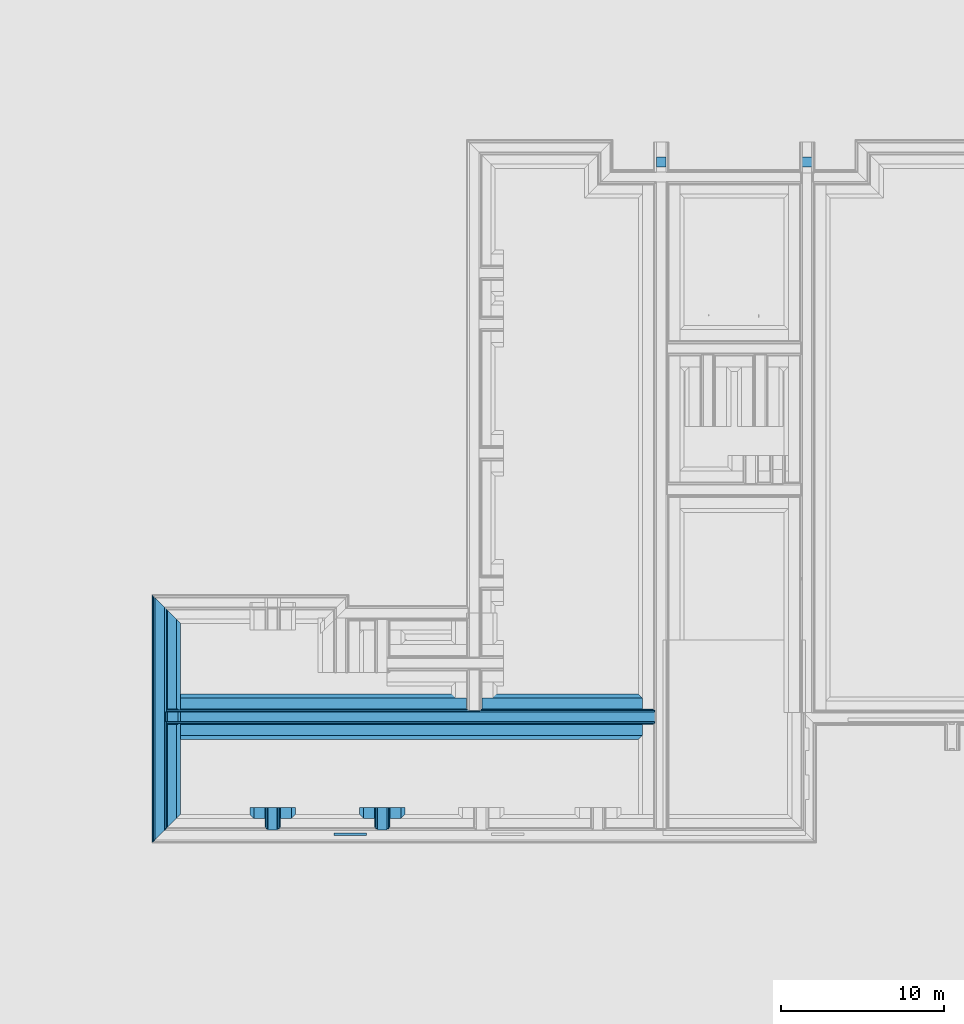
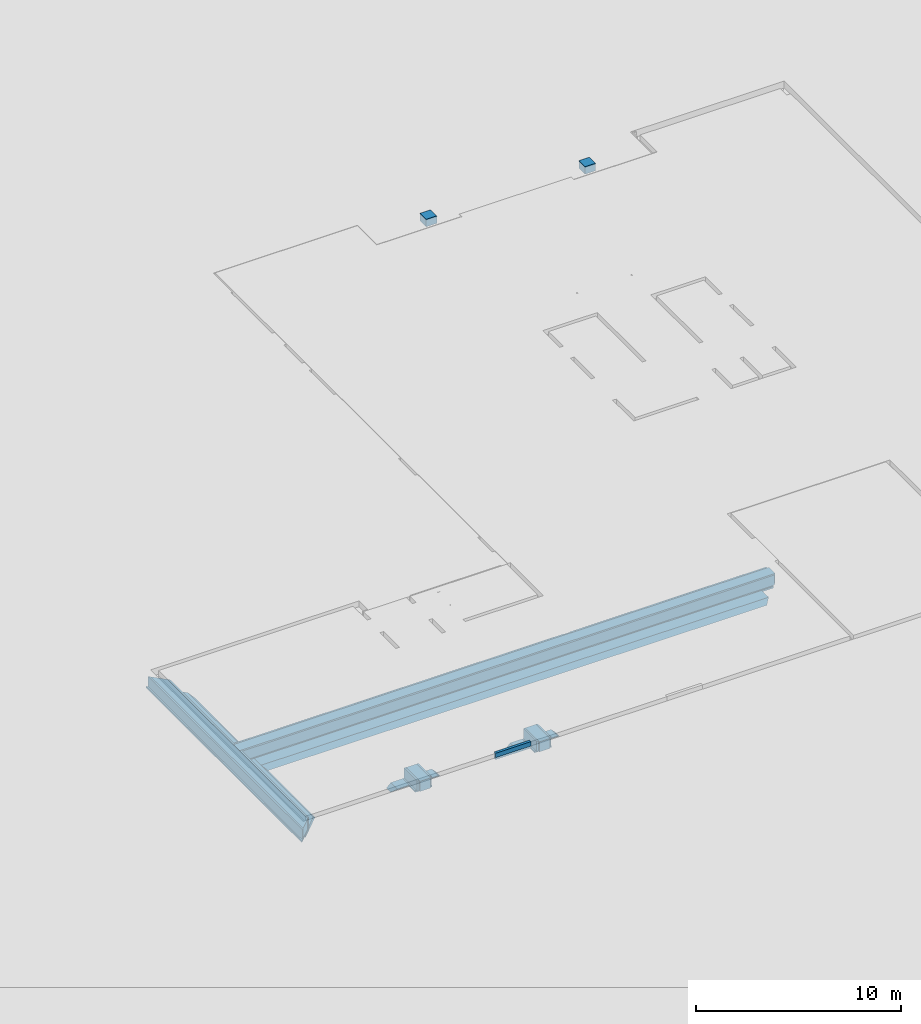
# One storey, part 2 of 15: 22 building element parts, 2 slabs, 5 elements without a shape of their own.
"""IFC2X3 building model written with IfcOpenShell, lengths in millimetres."""

from ifc_helpers import new_model, entity, si_unit, converted_unit, derived_unit, money_unit, direction, frame, origin_with_axes, place, context, subcontext, project, spatial, faceted_brep, material, type_object, element, aggregate, save


model = new_model("IFC2X3")

# Units and contexts
model_context = context("Model", 3, precision=0.01, world=origin_with_axes(), true_north=direction((0.0, 1.0)))
plan_context = context("Plan", 3, precision=0.01, world=origin_with_axes(), true_north=direction((0.0, 1.0)))
body_context = subcontext(model_context, "Body", "Model", "MODEL_VIEW")
ifc_project = project(units=[si_unit("LENGTHUNIT", "METRE", prefix="MILLI"), si_unit("AREAUNIT", "SQUARE_METRE"), si_unit("VOLUMEUNIT", "CUBIC_METRE"), converted_unit("PLANEANGLEUNIT", "DEGREE", entity("IfcPlaneAngleMeasure", 0.0174532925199), si_unit("PLANEANGLEUNIT", "RADIAN"), dimensions=[0, 0, 0, 0, 0, 0, 0]), money_unit("EUR"), converted_unit("TIMEUNIT", "Year", entity("IfcTimeMeasure", 31556926.0), si_unit("TIMEUNIT", "SECOND"), dimensions=[0, 0, 1, 0, 0, 0, 0]), si_unit("MASSUNIT", "GRAM", prefix="KILO"), si_unit("THERMODYNAMICTEMPERATUREUNIT", "DEGREE_CELSIUS"), si_unit("LUMINOUSINTENSITYUNIT", "LUMEN"), si_unit("ENERGYUNIT", "JOULE", prefix="MEGA"), derived_unit("THERMALCONDUCTANCEUNIT", [(si_unit("POWERUNIT", "WATT"), 1), (si_unit("LENGTHUNIT", "METRE"), -1), (si_unit("THERMODYNAMICTEMPERATUREUNIT", "KELVIN"), -1)]), derived_unit("SPECIFICHEATCAPACITYUNIT", [(si_unit("ENERGYUNIT", "JOULE"), 1), (si_unit("MASSUNIT", "GRAM", prefix="KILO"), -1), (si_unit("THERMODYNAMICTEMPERATUREUNIT", "KELVIN"), -1)]), derived_unit("MASSDENSITYUNIT", [(si_unit("MASSUNIT", "GRAM", prefix="KILO"), 1), (si_unit("VOLUMEUNIT", "CUBIC_METRE"), -1)])], contexts=[model_context, plan_context])

# Site, building, storey
site_placement = place(None, origin_with_axes())
site = spatial("IfcSite", under=ifc_project, at=site_placement, Name="Site", CompositionType="ELEMENT")
building_placement = place(site_placement, origin_with_axes())
building = spatial("IfcBuilding", under=site, at=building_placement, Name="Naam gebouw", CompositionType="ELEMENT")
storey_placement = place(building_placement, frame((0.0, 0.0, -1050.0), z_axis=(0.0, 0.0, 1.0), x_axis=(1.0, 0.0, 0.0)))
storey = spatial("IfcBuildingStorey", under=building, at=storey_placement, Name="fundering", CompositionType="ELEMENT", Elevation=-1050.0)

# Slabs
ifc_material_1 = material(Name="Beton gewapend C")
slab_type_1 = type_object("IfcSlabType", Name="Beton gewapend C 440", PredefinedType="NOTDEFINED")
for number, where, z_axis, x_axis, name in (
    (1, (35305.0, 45824.1758625, 980.0), (0.0, 0.0, 1.0), (1.0, 0.0, 0.0), "23_dakisolatie"),
    (2, (44245.0, 45824.1758625, 980.0), (0.0, 0.0, 1.0), (1.0, 0.0, 0.0), "23_dakisolatie"),
):
    element("IfcSlab", number, at=place(storey_placement, frame(where, z_axis=z_axis, x_axis=x_axis)), inside=storey, type_object=slab_type_1, material=ifc_material_1, Name=name, PredefinedType="NOTDEFINED", context=body_context, shape_type="Brep", body=[
        faceted_brep([(600.0, 0.0, -440.000001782), (600.0, 0.0, 0.0), (0.0, 0.0, 0.0), (0.0, 0.0, -440.000001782), (600.0, 600.0, -440.000001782), (600.0, 600.0, 0.0), (0.0, 600.0, 0.0), (0.0, 600.0, -440.000001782)], [[[0, 1, 2, 3]], [[4, 5, 1, 0]], [[1, 5, 6, 2]], [[3, 2, 6, 7]], [[7, 4, 0, 3]], [[7, 6, 5, 4]]]),
    ])

# Slab, building element parts
slab_type_2 = type_object("IfcSlabType", Name="23 kanaaplaat VBI Rc 3,7 132mm 450", PredefinedType="NOTDEFINED")
slab_placement = place(storey_placement, frame((15550.0013568, 4850.0, 1050.0), z_axis=(0.0, 0.0, 1.0), x_axis=(1.0, 0.0, 0.0)))
slab = element("IfcSlab", 3, at=slab_placement, inside=storey, type_object=slab_type_2, Name="23_23 VBI 260 Rc 3,8", PredefinedType="NOTDEFINED")
ifc_material_2 = material(Name="Beton gewapend prefab vloer")
building_element_part_1_placement = place(slab_placement, origin_with_axes())
building_element_part_1 = element("IfcBuildingElementPart", 4, at=building_element_part_1_placement, material=ifc_material_2, Name="Beton gewapend prefab vloer", context=body_context, shape_type="Brep", body=[
    faceted_brep([(2000.0, 0.0, -330.0), (2000.0, 0.0, -70.0), (0.0, 0.0, -70.0), (0.0, 0.0, -330.0), (2000.0, 149.99997201, -330.0), (2000.0, 149.99997201, -70.0), (0.0, 149.99997201, -70.0), (0.0, 149.99997201, -330.0)], [[[0, 1, 2, 3]], [[4, 5, 1, 0]], [[2, 1, 5, 6]], [[3, 2, 6, 7]], [[3, 7, 4, 0]], [[7, 6, 5, 4]]]),
])
ifc_material_3 = material(Name="Isolatie - EPS vloer")
building_element_part_2_placement = place(slab_placement, origin_with_axes())
building_element_part_2 = element("IfcBuildingElementPart", 5, at=building_element_part_2_placement, material=ifc_material_3, Name="Isolatie - EPS vloer", context=body_context, shape_type="Brep", body=[
    faceted_brep([(0.0, 0.0, -330.0), (0.0, 0.0, -450.0), (2000.0, 0.0, -450.0), (2000.0, 0.0, -330.0), (0.0, 149.99997201, -330.0), (0.0, 149.99997201, -450.0), (2000.0, 149.99997201, -450.0), (2000.0, 149.99997201, -330.0)], [[[0, 1, 2, 3]], [[4, 5, 1, 0]], [[2, 1, 5, 6]], [[3, 2, 6, 7]], [[4, 0, 3, 7]], [[7, 6, 5, 4]]]),
])
aggregate(slab, [building_element_part_1, building_element_part_2])

# Beam, building element parts
beam_type_1 = type_object("IfcBeamType", Name="Fundering balk IsoBouw Powerkist 2800 x 850", PredefinedType="BEAM")
beam_1_placement = place(storey_placement, frame((4850.0, 12125.0, -60.0000017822), z_axis=(0.0, 0.0, 1.0), x_axis=(0.0, -1.0, 0.0)))
beam_1 = element("IfcBeam", 6, at=beam_1_placement, inside=storey, type_object=beam_type_1, Name="28_Balk-x", ObjectType="BEAM")
ifc_material_4 = material(Name="ALG - TERREIN")
building_element_part_3_placement = place(beam_1_placement, origin_with_axes())
building_element_part_3 = element("IfcBuildingElementPart", 7, at=building_element_part_3_placement, material=ifc_material_4, Name="ALG - TERREIN", context=body_context, shape_type="Brep", body=[
    faceted_brep([(-1150.00074598, 18819.9997487, -3.57478113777e-06), (-1250.00074851, 18819.9997487, -99.9999968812), (-1250.00074851, 19770.0002513, -99.9999968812), (-1150.00074598, 19770.0002513, -3.57478113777e-06), (-1150.00074598, 29604.999602, -1.92126834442e-05), (-1400.00074851, 29354.9996242, -249.999996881), (-1400.00074851, 1295.00000274, -249.999996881), (-1150.00074598, 1045.00001313, -7.27431315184e-06), (-475.000730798, 18819.9997487, -3.57478113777e-06), (-475.000730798, 18819.9997487, -99.9999968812), (-475.000730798, 19770.0002513, -99.9999968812), (-475.000730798, 1145.00001365, -100.00000779), (475.000730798, 1145.00001365, -100.00000779), (475.000730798, 29504.9996096, -100.000011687), (-475.000730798, 29504.9996096, -100.000011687), (-475.000730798, 19770.0002513, -3.57478113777e-06), (-475.000730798, 29604.999602, -1.92126834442e-05), (1150.00074598, 29604.999602, -1.92126834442e-05), (1400.00074851, 29354.9996242, -249.999996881), (475.000730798, 29604.999602, -1.92126834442e-05), (1400.00074851, 1295.00000274, -249.999996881), (-475.000730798, 1045.00001313, -7.27431315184e-06), (1150.00074598, 1045.00001313, -7.27431315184e-06), (475.000730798, 1045.00001313, -7.27431315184e-06)], [[[0, 1, 2, 3, 4, 5, 6, 7]], [[1, 0, 8, 9]], [[10, 2, 1, 9, 11, 12, 13, 14]], [[3, 2, 10, 15]], [[3, 15, 16, 4]], [[17, 18, 5, 4, 16, 14, 13, 19]], [[18, 20, 6, 5]], [[21, 7, 6, 20, 22, 23, 12, 11]], [[8, 0, 7, 21]], [[9, 8, 21, 11]], [[13, 12, 23, 19]], [[15, 10, 14, 16]], [[17, 22, 20, 18]], [[19, 23, 22, 17]]]),
])
ifc_material_5 = material(Name="Isolatie - EPS")
building_element_part_4_placement = place(beam_1_placement, origin_with_axes())
building_element_part_4 = element("IfcBuildingElementPart", 8, at=building_element_part_4_placement, material=ifc_material_5, Name="Isolatie - EPS", context=body_context, shape_type="Brep", body=[
    faceted_brep([(-475.000748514, 30279.9996244, -99.9999968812), (-475.000748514, 495.00000274, -99.9999968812), (-475.000748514, 495.00000274, 7.15338899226e-07), (-475.000748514, 30279.9996244, 1.52455683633e-05), (475.000748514, 30279.9996244, -99.9999968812), (475.000748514, 495.00000274, -99.9999968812), (-380.000754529, 495.00000274, 7.15338899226e-07), (-400.000745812, 495.00000274, 7.15338899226e-07), (475.000748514, 495.00000274, 7.15338899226e-07), (400.000745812, 495.00000274, 7.15338899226e-07), (380.000754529, 495.00000274, 7.15338899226e-07), (380.000754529, 495.00000274, -49.0824460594), (300.000746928, 495.00000274, -49.0824460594), (300.000746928, 495.00000274, 7.15338899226e-07), (-300.000746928, 495.00000274, 7.15338899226e-07), (-300.000746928, 495.00000274, -49.0824460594), (-380.000754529, 495.00000274, -49.0824460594), (-400.000745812, 30279.9996244, 1.52455683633e-05), (475.000748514, 30279.9996244, 1.52455683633e-05), (-380.000754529, 30279.9996244, 1.52455683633e-05), (-380.000754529, 30279.9996244, -49.0824460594), (-300.000746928, 30279.9996244, -49.0824460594), (-300.000746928, 30279.9996244, 1.52455683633e-05), (300.000746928, 30279.9996244, 1.52455683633e-05), (300.000746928, 30279.9996244, -49.0824460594), (380.000754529, 30279.9996244, -49.0824460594), (380.000754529, 30279.9996244, 1.52455683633e-05), (400.000745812, 30279.9996244, 1.52455683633e-05)], [[[0, 1, 2, 3]], [[4, 5, 1, 0]], [[6, 7, 2, 1, 5, 8, 9, 10, 11, 12, 13, 14, 15, 16]], [[3, 2, 7, 17]], [[18, 4, 0, 3, 17, 19, 20, 21, 22, 23, 24, 25, 26, 27]], [[18, 8, 5, 4]], [[17, 7, 6, 19]], [[27, 9, 8, 18]], [[26, 10, 9, 27]], [[25, 11, 10, 26]], [[24, 12, 11, 25]], [[23, 13, 12, 24]], [[22, 14, 13, 23]], [[21, 15, 14, 22]], [[20, 16, 15, 21]], [[19, 6, 16, 20]]]),
])
building_element_part_5_placement = place(beam_1_placement, origin_with_axes())
building_element_part_5 = element("IfcBuildingElementPart", 9, at=building_element_part_5_placement, material=ifc_material_5, Name="Isolatie - EPS", context=body_context, shape_type="Brep", body=[
    faceted_brep([(-400.0007394, 30354.9996265, 1.52455683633e-05), (-400.0007394, 19595.0002486, 0.0), (-400.0007394, 19595.0002486, 600.0), (-400.0007394, 30354.9996265, 600.000004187), (-380.000752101, 30279.9996244, 1.52455683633e-05), (-380.000752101, 19595.0002486, 0.0), (-300.00075075, 30354.9996265, 1.52455683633e-05), (-300.00075075, 30279.9996244, 1.52455683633e-05), (-300.000621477, 19595.0002486, 0.0), (-300.000621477, 19595.0002486, 600.0), (-300.00075075, 30354.9996265, 600.000004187), (-380.000752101, 495.00000274, 7.15338899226e-07), (-380.000752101, 18994.9997514, 0.0), (-380.000752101, 30279.9996244, -49.0824424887), (-380.000752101, 495.00000274, -49.0824424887), (-300.000621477, 18994.9997514, 0.0), (-300.000621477, 18994.9997514, 600.0), (-300.00075075, 419.999990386, 600.000000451), (-300.00075075, 419.999990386, 7.15338899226e-07), (-300.00075075, 495.00000274, 7.15338899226e-07), (-300.00075075, 495.00000274, -49.0824424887), (-300.00075075, 30279.9996244, -49.0824424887), (-400.0007394, 419.999990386, 7.15338899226e-07), (-400.0007394, 18994.9997514, 0.0), (-400.0007394, 18994.9997514, 600.0), (-400.0007394, 419.999990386, 600.000000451)], [[[0, 1, 2, 3]], [[4, 5, 1, 0, 6, 7]], [[8, 9, 2, 1, 5]], [[3, 2, 9, 10]], [[3, 10, 6, 0]], [[11, 12, 5, 4, 13, 14]], [[8, 15, 16, 17, 18, 19, 20, 21, 7, 6, 10, 9]], [[4, 7, 21, 13]], [[8, 5, 12, 15]], [[22, 23, 12, 11, 19, 18]], [[13, 21, 20, 14]], [[20, 19, 11, 14]], [[12, 23, 24, 16, 15]], [[17, 16, 24, 25]], [[22, 18, 17, 25]], [[25, 24, 23, 22]]]),
])
building_element_part_6_placement = place(beam_1_placement, origin_with_axes())
building_element_part_6 = element("IfcBuildingElementPart", 10, at=building_element_part_6_placement, material=ifc_material_5, Name="Isolatie - EPS", context=body_context, shape_type="Brep", body=[
    faceted_brep([(300.00075075, 495.00000274, 7.15338899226e-07), (300.00075075, 419.999990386, 7.15338899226e-07), (300.00075075, 419.999990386, 600.000000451), (300.00075075, 30354.9996265, 600.000004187), (300.00075075, 30354.9996265, 1.52455683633e-05), (300.00075075, 30279.9996244, 1.52455683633e-05), (300.00075075, 30279.9996244, -49.0824424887), (300.00075075, 495.00000274, -49.0824424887), (400.0007394, 30354.9996265, 1.52455683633e-05), (400.0007394, 419.999990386, 7.15338899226e-07), (380.000752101, 495.00000274, 7.15338899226e-07), (380.000752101, 30279.9996244, 1.52455683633e-05), (400.0007394, 419.999990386, 600.000000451), (400.0007394, 30354.9996265, 600.000004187), (380.000752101, 30279.9996244, -49.0824424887), (380.000752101, 495.00000274, -49.0824424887)], [[[0, 1, 2, 3, 4, 5, 6, 7]], [[8, 9, 1, 0, 10, 11, 5, 4]], [[9, 12, 2, 1]], [[3, 2, 12, 13]], [[13, 8, 4, 3]], [[11, 14, 6, 5]], [[14, 15, 7, 6]], [[10, 0, 7, 15]], [[13, 12, 9, 8]], [[11, 10, 15, 14]]]),
])
building_element_part_7_placement = place(beam_1_placement, origin_with_axes())
building_element_part_7 = element("IfcBuildingElementPart", 11, at=building_element_part_7_placement, material=ifc_material_1, Name="Beton gewapend C", context=body_context, shape_type="Brep", body=[
    faceted_brep([(-300.000745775, 30454.9996271, 0.0), (-300.000745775, 320.0, 1.78216552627e-06), (-300.000745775, 320.0, 600.000001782), (-300.000745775, 30454.9996271, 600.0), (300.000745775, 30454.9996271, 0.0), (300.000745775, 320.0, 1.78216552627e-06), (300.000745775, 320.0, 600.000001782), (300.000745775, 30454.9996271, 600.0)], [[[0, 1, 2, 3]], [[4, 5, 1, 0]], [[5, 6, 2, 1]], [[3, 2, 6, 7]], [[7, 4, 0, 3]], [[7, 6, 5, 4]]]),
])
aggregate(beam_1, [building_element_part_3, building_element_part_4, building_element_part_5, building_element_part_6, building_element_part_7])

beam_type_2 = type_object("IfcBeamType", Name="Fundering balk IsoBouw Powerkist buitenwand 1750 x 850", PredefinedType="BEAM")
beam_2_placement = place(storey_placement, frame((4850.0, 4850.0, -60.0000017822), z_axis=(0.0, 0.0, 1.0), x_axis=(1.0, 0.0, 0.0)))
beam_2 = element("IfcBeam", 12, at=beam_2_placement, inside=storey, type_object=beam_type_2, Name="28_Balk-x", ObjectType="BEAM")
building_element_part_8_placement = place(beam_2_placement, origin_with_axes())
building_element_part_8 = element("IfcBuildingElementPart", 13, at=building_element_part_8_placement, material=ifc_material_4, Name="ALG - TERREIN", context=body_context, shape_type="Brep", body=[
    faceted_brep([(1145.00000274, 6799.99925149, -99.9999968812), (1045.00001313, 6799.99925149, 9.83649384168e-07), (1045.00001313, 1045.0000137, -7.27431315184e-06), (1295.00000274, 1295.00000344, -249.999996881), (1295.00000274, 13004.9999973, -249.999996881), (1045.00001313, 13254.9999869, -7.27431315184e-06), (1045.00001313, 7750.00074851, 9.83649384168e-07), (1145.00000274, 7750.00074851, -99.9999968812), (495.00000274, 6799.99925149, -99.9999968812), (495.00000274, 6799.99925149, 7.15338899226e-07), (495.000015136, 495.000015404, -7.27431315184e-06), (495.000015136, 495.000015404, -99.9999926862), (20.0000061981, 20.0000062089, -99.9999926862), (20.0000061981, 20.0000062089, -249.999996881), (20.0000061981, 14279.9999938, -249.999996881), (495.000015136, 13804.9999849, -7.27431315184e-06), (20.0000061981, 14279.9999938, -99.9999926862), (495.000015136, 13804.9999849, -99.9999926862), (495.00000274, 7750.00074851, 7.15338899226e-07), (495.00000274, 7750.00074851, -99.9999968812)], [[[0, 1, 2, 3, 4, 5, 6, 7]], [[1, 0, 8, 9]], [[1, 9, 10, 2]], [[3, 2, 10, 11, 12, 13]], [[13, 14, 4, 3]], [[15, 5, 4, 14, 16, 17]], [[18, 6, 5, 15]], [[7, 6, 18, 19]], [[8, 0, 7, 19, 17, 16, 12, 11]], [[9, 8, 11, 10]], [[12, 16, 14, 13]], [[19, 18, 15, 17]]]),
])
building_element_part_9_placement = place(beam_2_placement, origin_with_axes())
building_element_part_9 = element("IfcBuildingElementPart", 14, at=building_element_part_9_placement, material=ifc_material_5, Name="Isolatie - EPS", context=body_context, shape_type="Brep", body=[
    faceted_brep([(400.000002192, 400.000002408, 7.15338899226e-07), (400.000002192, 13899.9999978, 7.15338899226e-07), (400.000002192, 13899.9999978, -49.0824410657), (400.000002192, 400.000002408, -49.0824410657), (419.999990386, 419.999990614, 7.15338899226e-07), (419.999990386, 13880.0000096, 7.15338899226e-07), (495.00000274, 13804.9999973, 7.15338899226e-07), (495.00000274, 13804.9999973, -99.9999968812), (20.0000061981, 14279.9999938, -99.9999926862), (-455.00000274, 14755.0000027, -99.9999968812), (-455.00000274, 14755.0000027, 7.15338899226e-07), (-379.999990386, 14679.9999904, 7.15338899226e-07), (-360.000002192, 14660.0000022, 7.15338899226e-07), (-360.000002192, 14660.0000022, -49.0824410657), (-279.99999279, 14579.9999928, -49.0824410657), (-279.99999279, 14579.9999928, 7.15338899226e-07), (319.99999279, 13980.0000072, 7.15338899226e-07), (319.99999279, 13980.0000072, -49.0824410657), (319.99999279, 319.999992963, -49.0824410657), (319.99999279, 319.999992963, 7.15338899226e-07), (-279.99999279, -279.999992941, 7.15338899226e-07), (-279.99999279, -279.999992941, -49.0824410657), (-360.000002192, -360.000002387, -49.0824410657), (-360.000002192, -360.000002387, 7.15338899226e-07), (-379.999990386, -379.999990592, 7.15338899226e-07), (-455.00000274, -455.000002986, 7.15338899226e-07), (-455.00000274, -455.000002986, -99.9999968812), (20.0000061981, 20.0000062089, -99.9999926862), (495.00000274, 495.000003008, -99.9999968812), (495.00000274, 495.000003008, 7.15338899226e-07)], [[[0, 1, 2, 3]], [[4, 5, 1, 0]], [[2, 1, 5, 6, 7, 8, 9, 10, 11, 12, 13, 14, 15, 16, 17]], [[3, 2, 17, 18]], [[4, 0, 3, 18, 19, 20, 21, 22, 23, 24, 25, 26, 27, 28, 29]], [[29, 6, 5, 4]], [[28, 7, 6, 29]], [[27, 8, 7, 28]], [[26, 9, 8, 27]], [[25, 10, 9, 26]], [[24, 11, 10, 25]], [[23, 12, 11, 24]], [[22, 13, 12, 23]], [[21, 14, 13, 22]], [[20, 15, 14, 21]], [[19, 16, 15, 20]], [[18, 17, 16, 19]]]),
])
building_element_part_10_placement = place(beam_2_placement, origin_with_axes())
building_element_part_10 = element("IfcBuildingElementPart", 15, at=building_element_part_10_placement, material=ifc_material_5, Name="Isolatie - EPS", context=body_context, shape_type="Brep", body=[
    faceted_brep([(-379.999993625, 14679.9999936, 2.28759100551e-06), (-359.999996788, 14659.9999968, 2.28759100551e-06), (-359.999996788, -359.999996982, 2.28759100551e-06), (-379.999993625, -379.999993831, 2.28759100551e-06), (-379.999993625, 14679.9999936, 600.000001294), (-279.999999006, 14579.999999, 600.000001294), (-279.999999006, 14579.999999, -49.0824424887), (-359.999996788, 14659.9999968, -49.0824424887), (-359.999996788, -359.999996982, -49.0824424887), (-279.999999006, -279.999999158, -49.0824424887), (-279.999999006, -279.999999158, 600.000001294), (-379.999993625, -379.999993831, 600.000001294)], [[[0, 1, 2, 3]], [[0, 4, 5, 6, 7, 1]], [[1, 7, 8, 2]], [[3, 2, 8, 9, 10, 11]], [[4, 0, 3, 11]], [[5, 4, 11, 10]], [[6, 5, 10, 9]], [[7, 6, 9, 8]]]),
])
building_element_part_11_placement = place(beam_2_placement, origin_with_axes())
building_element_part_11 = element("IfcBuildingElementPart", 16, at=building_element_part_11_placement, material=ifc_material_5, Name="Isolatie - EPS", context=body_context, shape_type="Brep", body=[
    faceted_brep([(319.999999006, 13980.000001, 600.000003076), (320.0, 7575.00074577, 600.000001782), (419.999993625, 7575.00074577, 600.000001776), (419.999993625, 13880.0000064, 600.000003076), (320.0, 6974.99925423, 1.78216552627e-06), (320.0, 7575.00074577, 1.78216552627e-06), (319.999999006, 13980.000001, -49.0824407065), (319.999999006, 319.999999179, -49.0824407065), (319.999999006, 319.999999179, 600.000003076), (320.0, 6974.99925423, 600.000001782), (399.999996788, 7575.00074577, 1.77743442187e-06), (419.999993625, 7575.00074577, 1.77625159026e-06), (419.999993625, 13880.0000064, 4.06975675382e-06), (399.999996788, 13900.0000032, 4.06975675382e-06), (399.999996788, 13900.0000032, -49.0824407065), (399.999996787, 6974.99925423, 1.77743442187e-06), (399.999996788, 399.999997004, -49.0824407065), (399.999996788, 399.999997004, 4.06975675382e-06), (419.999993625, 419.999993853, 4.06975675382e-06), (419.999993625, 419.999993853, 600.000003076), (419.999993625, 6974.99925423, 600.000001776), (419.999993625, 6974.99925423, 1.77625159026e-06)], [[[0, 1, 2, 3]], [[4, 5, 1, 0, 6, 7, 8, 9]], [[10, 11, 2, 1, 5]], [[3, 2, 11, 12]], [[6, 0, 3, 12, 13, 14]], [[4, 15, 10, 5]], [[16, 7, 6, 14]], [[17, 18, 19, 8, 7, 16]], [[19, 20, 9, 8]], [[4, 9, 20, 21, 15]], [[12, 11, 10, 13]], [[13, 10, 15, 17, 16, 14]], [[17, 15, 21, 18]], [[18, 21, 20, 19]]]),
])
building_element_part_12_placement = place(beam_2_placement, origin_with_axes())
building_element_part_12 = element("IfcBuildingElementPart", 17, at=building_element_part_12_placement, material=ifc_material_1, Name="Beton gewapend C", context=body_context, shape_type="Brep", body=[
    faceted_brep([(320.0, 320.000000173, 600.000001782), (320.0, 13980.0, 600.000001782), (-280.0, 14580.0, 600.0), (-280.0, -280.000000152, 600.0), (320.0, 320.000000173, 1.78216552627e-06), (320.0, 13980.0, 1.78216552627e-06), (-280.0, 14580.0, 0.0), (-280.0, -280.000000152, 0.0)], [[[0, 1, 2, 3]], [[4, 5, 1, 0]], [[2, 1, 5, 6]], [[3, 2, 6, 7]], [[4, 0, 3, 7]], [[7, 6, 5, 4]]]),
])
aggregate(beam_2, [building_element_part_8, building_element_part_9, building_element_part_10, building_element_part_11, building_element_part_12])

beam_3_placement = place(storey_placement, frame((11787.5, 4850.0, -60.0000017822), z_axis=(0.0, 0.0, 1.0), x_axis=(1.0, 0.0, 0.0)))
beam_3 = element("IfcBeam", 18, at=beam_3_placement, inside=storey, type_object=beam_type_1, Name="28_Balk-x", ObjectType="BEAM")
building_element_part_13_placement = place(beam_3_placement, origin_with_axes())
building_element_part_13 = element("IfcBuildingElementPart", 19, at=building_element_part_13_placement, material=ifc_material_4, Name="ALG - TERREIN", context=body_context, shape_type="Brep", body=[
    faceted_brep([(1150.00074598, 1045.00001751, -2.29646834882e-06), (1400.00074868, 1295.00000725, -249.999996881), (1400.00074851, 1700.0000119, -249.999996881), (1150.00074598, 1700.0000119, 5.65164248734e-06), (-1400.00074858, 1295.00000574, -249.999996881), (475.000730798, 1045.00001715, -2.77357803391e-06), (475.000730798, 1145.00002046, -100.000010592), (-475.000730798, 1145.00001995, -100.000010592), (-475.000730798, 1045.00001663, -3.44506689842e-06), (-1150.00074598, 1045.00001627, -3.92217658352e-06), (-1400.00074851, 1700.0000119, -249.999996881), (-475.000730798, 1700.0000119, -100.000012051), (475.000730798, 1700.0000119, -100.000012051), (475.000730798, 1700.0000119, 5.65164248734e-06), (-1150.00074598, 1700.0000119, 5.65164226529e-06), (-475.000730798, 1700.0000119, 5.65164226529e-06)], [[[0, 1, 2, 3]], [[4, 1, 0, 5, 6, 7, 8, 9]], [[1, 4, 10, 2]], [[11, 12, 13, 3, 2, 10, 14, 15]], [[5, 0, 3, 13]], [[6, 5, 13, 12]], [[7, 6, 12, 11]], [[8, 7, 11, 15]], [[9, 8, 15, 14]], [[4, 9, 14, 10]]]),
])
building_element_part_14_placement = place(beam_3_placement, origin_with_axes())
building_element_part_14 = element("IfcBuildingElementPart", 20, at=building_element_part_14_placement, material=ifc_material_5, Name="Isolatie - EPS", context=body_context, shape_type="Brep", body=[
    faceted_brep([(400.000745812, 495.000006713, 7.15338899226e-07), (475.000748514, 495.000006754, 7.15338899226e-07), (475.000748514, 1700.0000119, 2.00297778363e-06), (400.000745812, 1700.0000119, 2.00297778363e-06), (475.000748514, 495.000006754, -99.9999968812), (380.000754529, 495.000006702, 7.15338899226e-07), (380.000754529, 495.000006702, -49.0824460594), (300.000746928, 495.000006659, -49.0824460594), (300.000746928, 495.000006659, 7.15338899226e-07), (-300.000746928, 495.000006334, 7.15338899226e-07), (-300.000746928, 495.000006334, -49.0824460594), (-380.000754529, 495.000006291, -49.0824460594), (-380.000754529, 495.000006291, 7.15338899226e-07), (-400.000745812, 495.00000628, 7.15338899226e-07), (-475.000748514, 495.000006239, 7.15338899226e-07), (-475.000748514, 495.000006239, -99.9999968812), (475.000748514, 1700.0000119, -99.9999968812), (300.000746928, 1700.0000119, -49.0824460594), (380.000754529, 1700.0000119, -49.0824460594), (380.000754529, 1700.0000119, 2.00297778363e-06), (-475.000748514, 1700.0000119, -99.9999968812), (-475.000748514, 1700.0000119, 2.00297756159e-06), (-400.000745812, 1700.0000119, 2.00297778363e-06), (-380.000754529, 1700.0000119, 2.00297778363e-06), (-380.000754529, 1700.0000119, -49.0824460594), (-300.000746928, 1700.0000119, -49.0824460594), (-300.000746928, 1700.0000119, 2.00297778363e-06), (300.000746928, 1700.0000119, 2.00297778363e-06)], [[[0, 1, 2, 3]], [[4, 1, 0, 5, 6, 7, 8, 9, 10, 11, 12, 13, 14, 15]], [[1, 4, 16, 2]], [[17, 18, 19, 3, 2, 16, 20, 21, 22, 23, 24, 25, 26, 27]], [[5, 0, 3, 19]], [[6, 5, 19, 18]], [[7, 6, 18, 17]], [[8, 7, 17, 27]], [[9, 8, 27, 26]], [[10, 9, 26, 25]], [[11, 10, 25, 24]], [[12, 11, 24, 23]], [[13, 12, 23, 22]], [[14, 13, 22, 21]], [[15, 14, 21, 20]], [[4, 15, 20, 16]]]),
])
building_element_part_15_placement = place(beam_3_placement, origin_with_axes())
building_element_part_15 = element("IfcBuildingElementPart", 21, at=building_element_part_15_placement, material=ifc_material_5, Name="Isolatie - EPS", context=body_context, shape_type="Brep", body=[
    faceted_brep([(-300.00075075, 1700.0000119, 599.999997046), (-300.00075075, 419.99999398, 600.000000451), (-300.00075075, 419.99999398, 7.15338899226e-07), (-300.00075075, 495.000006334, 7.15338899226e-07), (-300.00075075, 495.000006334, -49.0824424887), (-300.00075075, 1700.0000119, -49.0824424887), (-400.0007394, 1700.0000119, 599.999997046), (-400.0007394, 419.999993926, 600.000000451), (-400.0007394, 419.999993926, 7.15338899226e-07), (-400.0007394, 1700.0000119, 2.5632542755e-06), (-380.000752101, 1700.0000119, 2.5632542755e-06), (-380.000752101, 495.000006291, 7.15338899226e-07), (-380.000752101, 495.000006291, -49.0824424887), (-380.000752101, 1700.0000119, -49.0824424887)], [[[0, 1, 2, 3, 4, 5]], [[6, 7, 1, 0]], [[8, 2, 1, 7]], [[3, 2, 8, 9, 10, 11]], [[12, 4, 3, 11]], [[5, 4, 12, 13]], [[5, 13, 10, 9, 6, 0]], [[9, 8, 7, 6]], [[13, 12, 11, 10]]]),
])
building_element_part_16_placement = place(beam_3_placement, origin_with_axes())
building_element_part_16 = element("IfcBuildingElementPart", 22, at=building_element_part_16_placement, material=ifc_material_5, Name="Isolatie - EPS", context=body_context, shape_type="Brep", body=[
    faceted_brep([(300.00075075, 1700.0000119, 599.999997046), (300.00075075, 419.999994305, 600.000000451), (400.0007394, 419.999994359, 600.000000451), (400.0007394, 1700.0000119, 599.999997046), (300.00075075, 495.000006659, 7.15338899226e-07), (300.00075075, 419.999994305, 7.15338899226e-07), (300.00075075, 1700.0000119, -49.0824424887), (300.00075075, 495.000006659, -49.0824424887), (400.0007394, 419.999994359, 7.15338899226e-07), (400.0007394, 1700.0000119, 2.5632542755e-06), (380.000752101, 1700.0000119, -49.0824424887), (380.000752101, 1700.0000119, 2.5632542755e-06), (380.000752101, 495.000006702, 7.15338899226e-07), (380.000752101, 495.000006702, -49.0824424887)], [[[0, 1, 2, 3]], [[4, 5, 1, 0, 6, 7]], [[5, 8, 2, 1]], [[3, 2, 8, 9]], [[10, 6, 0, 3, 9, 11]], [[9, 8, 5, 4, 12, 11]], [[10, 13, 7, 6]], [[7, 13, 12, 4]], [[11, 12, 13, 10]]]),
])
building_element_part_17_placement = place(beam_3_placement, origin_with_axes())
building_element_part_17 = element("IfcBuildingElementPart", 23, at=building_element_part_17_placement, material=ifc_material_1, Name="Beton gewapend C", context=body_context, shape_type="Brep", body=[
    faceted_brep([(-300.000745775, 1700.0000119, 600.0), (-300.000745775, 320.000003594, 600.000001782), (300.000745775, 320.000003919, 600.000001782), (300.000745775, 1700.0000119, 600.0), (-300.000745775, 1700.0000119, 0.0), (-300.000745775, 320.000003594, 1.78216552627e-06), (300.000745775, 320.000003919, 1.78216552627e-06), (300.000745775, 1700.0000119, 0.0)], [[[0, 1, 2, 3]], [[4, 5, 1, 0]], [[5, 6, 2, 1]], [[3, 2, 6, 7]], [[7, 4, 0, 3]], [[7, 6, 5, 4]]]),
])
aggregate(beam_3, [building_element_part_13, building_element_part_14, building_element_part_15, building_element_part_16, building_element_part_17])

beam_4_placement = place(storey_placement, frame((18505.0, 4850.0, -60.0000017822), z_axis=(0.0, 0.0, 1.0), x_axis=(1.0, 0.0, 0.0)))
beam_4 = element("IfcBeam", 24, at=beam_4_placement, inside=storey, type_object=beam_type_1, Name="28_Balk-x", ObjectType="BEAM")
building_element_part_18_placement = place(beam_4_placement, origin_with_axes())
building_element_part_18 = element("IfcBuildingElementPart", 25, at=building_element_part_18_placement, material=ifc_material_4, Name="ALG - TERREIN", context=body_context, shape_type="Brep", body=[
    faceted_brep([(1150.00074598, 1045.00002115, -7.91224197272e-07), (1400.00074868, 1295.00001089, -249.999996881), (1400.00074851, 1700.0000119, -249.999996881), (1150.00074598, 1700.0000119, 5.65164248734e-06), (-1400.00074858, 1295.00000938, -249.999996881), (475.000730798, 1045.00002078, -1.10925357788e-06), (475.000730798, 1145.0000241, -100.000010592), (-475.000730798, 1145.00002359, -100.000010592), (-475.000730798, 1045.00002027, -1.55685109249e-06), (-1150.00074598, 1045.0000199, -1.87488069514e-06), (-1400.00074851, 1700.0000119, -249.999996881), (-475.000730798, 1700.0000119, -100.000012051), (475.000730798, 1700.0000119, -100.000012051), (475.000730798, 1700.0000119, 5.65164248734e-06), (-1150.00074598, 1700.0000119, 5.65164226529e-06), (-475.000730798, 1700.0000119, 5.65164226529e-06)], [[[0, 1, 2, 3]], [[4, 1, 0, 5, 6, 7, 8, 9]], [[1, 4, 10, 2]], [[11, 12, 13, 3, 2, 10, 14, 15]], [[5, 0, 3, 13]], [[6, 5, 13, 12]], [[7, 6, 12, 11]], [[8, 7, 11, 15]], [[9, 8, 15, 14]], [[4, 9, 14, 10]]]),
])
building_element_part_19_placement = place(beam_4_placement, origin_with_axes())
building_element_part_19 = element("IfcBuildingElementPart", 26, at=building_element_part_19_placement, material=ifc_material_5, Name="Isolatie - EPS", context=body_context, shape_type="Brep", body=[
    faceted_brep([(400.000745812, 495.000010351, 7.15338899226e-07), (475.000748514, 495.000010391, 7.15338899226e-07), (475.000748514, 1700.0000119, 2.00297778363e-06), (400.000745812, 1700.0000119, 2.00297778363e-06), (475.000748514, 495.000010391, -99.9999968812), (380.000754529, 495.00001034, 7.15338899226e-07), (380.000754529, 495.00001034, -49.0824460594), (300.000746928, 495.000010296, -49.0824460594), (300.000746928, 495.000010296, 7.15338899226e-07), (-300.000746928, 495.000009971, 7.15338899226e-07), (-300.000746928, 495.000009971, -49.0824460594), (-380.000754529, 495.000009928, -49.0824460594), (-380.000754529, 495.000009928, 7.15338899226e-07), (-400.000745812, 495.000009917, 7.15338899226e-07), (-475.000748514, 495.000009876, 7.15338899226e-07), (-475.000748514, 495.000009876, -99.9999968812), (475.000748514, 1700.0000119, -99.9999968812), (300.000746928, 1700.0000119, -49.0824460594), (380.000754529, 1700.0000119, -49.0824460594), (380.000754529, 1700.0000119, 2.00297778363e-06), (-475.000748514, 1700.0000119, -99.9999968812), (-475.000748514, 1700.0000119, 2.00297756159e-06), (-400.000745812, 1700.0000119, 2.00297778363e-06), (-380.000754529, 1700.0000119, 2.00297778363e-06), (-380.000754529, 1700.0000119, -49.0824460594), (-300.000746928, 1700.0000119, -49.0824460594), (-300.000746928, 1700.0000119, 2.00297778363e-06), (300.000746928, 1700.0000119, 2.00297778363e-06)], [[[0, 1, 2, 3]], [[4, 1, 0, 5, 6, 7, 8, 9, 10, 11, 12, 13, 14, 15]], [[1, 4, 16, 2]], [[17, 18, 19, 3, 2, 16, 20, 21, 22, 23, 24, 25, 26, 27]], [[5, 0, 3, 19]], [[6, 5, 19, 18]], [[7, 6, 18, 17]], [[8, 7, 17, 27]], [[9, 8, 27, 26]], [[10, 9, 26, 25]], [[11, 10, 25, 24]], [[12, 11, 24, 23]], [[13, 12, 23, 22]], [[14, 13, 22, 21]], [[15, 14, 21, 20]], [[4, 15, 20, 16]]]),
])
building_element_part_20_placement = place(beam_4_placement, origin_with_axes())
building_element_part_20 = element("IfcBuildingElementPart", 27, at=building_element_part_20_placement, material=ifc_material_5, Name="Isolatie - EPS", context=body_context, shape_type="Brep", body=[
    faceted_brep([(-300.00075075, 1700.0000119, 599.999997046), (-300.00075075, 419.999997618, 600.000000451), (-300.00075075, 419.999997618, 7.15338899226e-07), (-300.00075075, 495.000009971, 7.15338899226e-07), (-300.00075075, 495.000009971, -49.0824424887), (-300.00075075, 1700.0000119, -49.0824424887), (-400.0007394, 1700.0000119, 599.999997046), (-400.0007394, 419.999997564, 600.000000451), (-400.0007394, 419.999997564, 7.15338899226e-07), (-400.0007394, 1700.0000119, 2.5632542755e-06), (-380.000752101, 1700.0000119, 2.5632542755e-06), (-380.000752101, 495.000009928, 7.15338899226e-07), (-380.000752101, 495.000009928, -49.0824424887), (-380.000752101, 1700.0000119, -49.0824424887)], [[[0, 1, 2, 3, 4, 5]], [[6, 7, 1, 0]], [[8, 2, 1, 7]], [[3, 2, 8, 9, 10, 11]], [[12, 4, 3, 11]], [[5, 4, 12, 13]], [[5, 13, 10, 9, 6, 0]], [[9, 8, 7, 6]], [[13, 12, 11, 10]]]),
])
building_element_part_21_placement = place(beam_4_placement, origin_with_axes())
building_element_part_21 = element("IfcBuildingElementPart", 28, at=building_element_part_21_placement, material=ifc_material_5, Name="Isolatie - EPS", context=body_context, shape_type="Brep", body=[
    faceted_brep([(300.00075075, 1700.0000119, 599.999997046), (300.00075075, 419.999997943, 600.000000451), (400.0007394, 419.999997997, 600.000000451), (400.0007394, 1700.0000119, 599.999997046), (300.00075075, 495.000010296, 7.15338899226e-07), (300.00075075, 419.999997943, 7.15338899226e-07), (300.00075075, 1700.0000119, -49.0824424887), (300.00075075, 495.000010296, -49.0824424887), (400.0007394, 419.999997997, 7.15338899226e-07), (400.0007394, 1700.0000119, 2.5632542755e-06), (380.000752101, 1700.0000119, -49.0824424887), (380.000752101, 1700.0000119, 2.5632542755e-06), (380.000752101, 495.00001034, 7.15338899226e-07), (380.000752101, 495.00001034, -49.0824424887)], [[[0, 1, 2, 3]], [[4, 5, 1, 0, 6, 7]], [[5, 8, 2, 1]], [[3, 2, 8, 9]], [[10, 6, 0, 3, 9, 11]], [[9, 8, 5, 4, 12, 11]], [[10, 13, 7, 6]], [[7, 13, 12, 4]], [[11, 12, 13, 10]]]),
])
building_element_part_22_placement = place(beam_4_placement, origin_with_axes())
building_element_part_22 = element("IfcBuildingElementPart", 29, at=building_element_part_22_placement, material=ifc_material_1, Name="Beton gewapend C", context=body_context, shape_type="Brep", body=[
    faceted_brep([(-300.000745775, 1700.0000119, 600.0), (-300.000745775, 320.000007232, 600.000001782), (300.000745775, 320.000007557, 600.000001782), (300.000745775, 1700.0000119, 600.0), (-300.000745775, 1700.0000119, 0.0), (-300.000745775, 320.000007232, 1.78216552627e-06), (300.000745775, 320.000007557, 1.78216552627e-06), (300.000745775, 1700.0000119, 0.0)], [[[0, 1, 2, 3]], [[4, 5, 1, 0]], [[5, 6, 2, 1]], [[3, 2, 6, 7]], [[7, 4, 0, 3]], [[7, 6, 5, 4]]]),
])
aggregate(beam_4, [building_element_part_18, building_element_part_19, building_element_part_20, building_element_part_21, building_element_part_22])

save(model, "model.ifc")
